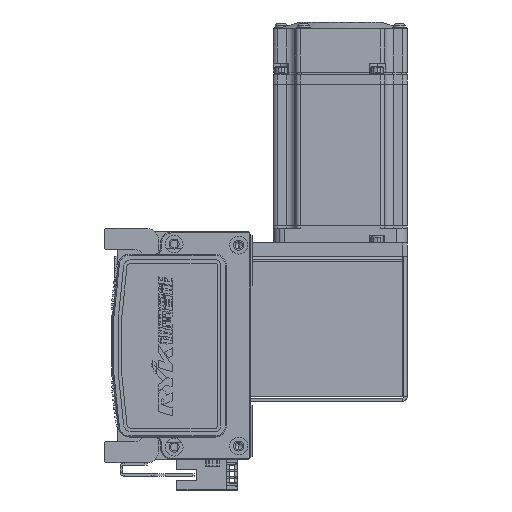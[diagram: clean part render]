
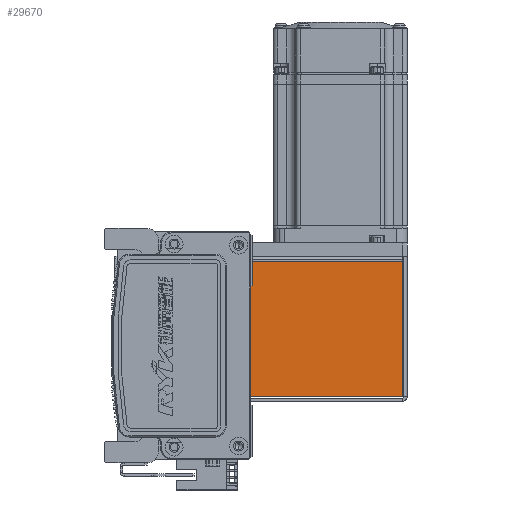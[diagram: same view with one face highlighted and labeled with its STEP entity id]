
A CAD part, left-side view. The second image highlights one B-rep face of the part: STEP entity #29670.
In plain terms, the highlighted planar face has unit normal (-1, 0, 0) as drawn and (0, 0, 1) by its records, which use the part's own axes.
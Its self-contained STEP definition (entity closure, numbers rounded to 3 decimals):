
#260 = DIRECTION ( 'NONE',  ( -1., 0., 0. ) ) ;
#767 = CARTESIAN_POINT ( 'NONE',  ( 30.263, 0.737, 35. ) ) ;
#954 = CARTESIAN_POINT ( 'NONE',  ( -30.293, 0., 35. ) ) ;
#1313 = DIRECTION ( 'NONE',  ( 0., 1., 0. ) ) ;
#2148 = LINE ( 'NONE', #954, #59771 ) ;
#2914 = EDGE_CURVE ( 'NONE', #12130, #30917, #2148, .T. ) ;
#2948 = CARTESIAN_POINT ( 'NONE',  ( 30.263, 72.5, 35. ) ) ;
#4705 = EDGE_CURVE ( 'NONE', #4982, #12130, #22540, .T. ) ;
#4982 = VERTEX_POINT ( 'NONE', #767 ) ;
#6302 = VECTOR ( 'NONE', #260, 1000. ) ;
#7777 = CARTESIAN_POINT ( 'NONE',  ( -30.293, 0.737, 35. ) ) ;
#11376 = EDGE_CURVE ( 'NONE', #72293, #30917, #44268, .T. ) ;
#11605 = FACE_OUTER_BOUND ( 'NONE', #18736, .T. ) ;
#12130 = VERTEX_POINT ( 'NONE', #7777 ) ;
#15458 = CARTESIAN_POINT ( 'NONE',  ( 30.263, 0.737, 35. ) ) ;
#17199 = VECTOR ( 'NONE', #60641, 1000. ) ;
#18736 = EDGE_LOOP ( 'NONE', ( #58078, #64412, #47055, #40339 ) ) ;
#20287 = VECTOR ( 'NONE', #1313, 1000. ) ;
#21437 = DIRECTION ( 'NONE',  ( 0., 0., -1. ) ) ;
#22540 = LINE ( 'NONE', #69217, #6302 ) ;
#25500 = EDGE_CURVE ( 'NONE', #4982, #72293, #48217, .T. ) ;
#29586 = DIRECTION ( 'NONE',  ( 0., 1., 0. ) ) ;
#29670 = ADVANCED_FACE ( 'NONE', ( #11605 ), #38787, .F. ) ;
#30917 = VERTEX_POINT ( 'NONE', #43031 ) ;
#37188 = CARTESIAN_POINT ( 'NONE',  ( 0., 72.5, 35. ) ) ;
#38787 = PLANE ( 'NONE',  #57651 ) ;
#40339 = ORIENTED_EDGE ( 'NONE', *, *, #4705, .F. ) ;
#43031 = CARTESIAN_POINT ( 'NONE',  ( -30.293, 72.5, 35. ) ) ;
#44268 = LINE ( 'NONE', #37188, #17199 ) ;
#47055 = ORIENTED_EDGE ( 'NONE', *, *, #2914, .F. ) ;
#48217 = LINE ( 'NONE', #15458, #20287 ) ;
#55952 = CARTESIAN_POINT ( 'NONE',  ( 0., 0., 35. ) ) ;
#56200 = DIRECTION ( 'NONE',  ( -1., 0., 0. ) ) ;
#57651 = AXIS2_PLACEMENT_3D ( 'NONE', #55952, #21437, #56200 ) ;
#58078 = ORIENTED_EDGE ( 'NONE', *, *, #25500, .T. ) ;
#59771 = VECTOR ( 'NONE', #29586, 1000. ) ;
#60641 = DIRECTION ( 'NONE',  ( -1., 0., 0. ) ) ;
#64412 = ORIENTED_EDGE ( 'NONE', *, *, #11376, .T. ) ;
#69217 = CARTESIAN_POINT ( 'NONE',  ( -32.5, 0.737, 35. ) ) ;
#72293 = VERTEX_POINT ( 'NONE', #2948 ) ;
